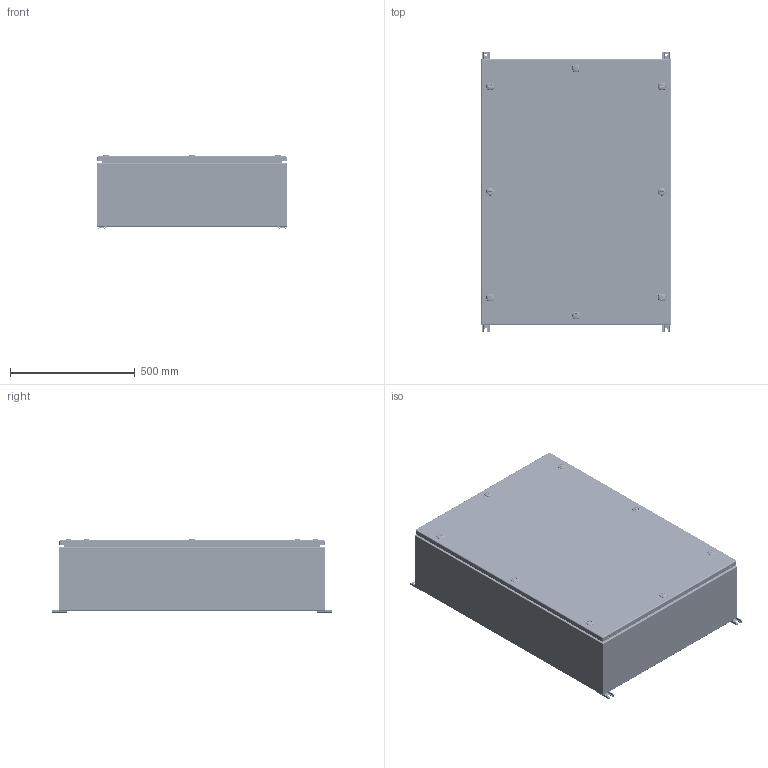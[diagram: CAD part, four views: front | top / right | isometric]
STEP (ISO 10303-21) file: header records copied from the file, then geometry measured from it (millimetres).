
FILE_DESCRIPTION(/* description */ ('5412ESQT 42" x 30" x 10" Assembly'),/* implementation_level */ '2;1');
FILE_NAME(/* name */ 'C:\Vault_Workspace\Inventor_Dwg\BoxCad\Result\5412ESQT423010TH\e-mail\3D\5412ESQT423010TH.stp',/* time_stamp */ '2023-07-13T20:10:30-04:00',/* author */ ('BoxCad'),/* organization */ (''),/* preprocessor_version */ 'ST-DEVELOPER v18.1',/* originating_system */ 'Autodesk Inventor 2020',/* authorisation */ '');
FILE_SCHEMA (('AUTOMOTIVE_DESIGN { 1 0 10303 214 3 1 1 }'));
Products named in the file (55): 5412ESQT423010TH; 5412ESQT423010THB; 5412ESQT423010THB-P; STK-Q-16005; 5412ESQT423010THI-B; 5412ESQT423010THI-TP; 5412ESQT423010THI-BT; 5412ESQT423010THI-LS; 5412ESQT423010THI-RS; 5412ESQT423010THBR; STK-A-70554; STK-Q-05021; STK-Q-07270; STK-A-70554TH-1; STK-Q-70554; 885ESMF3-Feet-A; 885ESMF3-Feet; STK-Q-06660; RIVET_NUT_M10_FH_CE; STK-K-885ESMF3; 5412ESQT423010THC; 5412ESQT423010THC-P; 5412ESQT423010THG; STK-Q-46515-1; STK-Q-46515-2; STK-Q-46515-3; STK-Q-16055; STK-Q-46515-4; STK-Q-46515-B; STK-Q-46515-A; STK-P-02400S; 5412ESQT423010THI-C; STK-Q-46020-42; STK-Q-46025-30-3; STK-Q-07250; STK-S-00100; STK-K-12500-1; STK-K-12500-2; STK-K-12500-3; STK-K-12500-4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
Assembly tree (161 placements, depth 5):
  5412ESQT423010TH
    5412ESQT423010THB
      5412ESQT423010THB-P
      STK-Q-16005  x6
      STK-P-02400S
      STK-Q-16055  x4
      5412ESQT423010THI-B
      5412ESQT423010THI-TP
      5412ESQT423010THI-BT
      5412ESQT423010THI-LS
      5412ESQT423010THI-RS
      5412ESQT423010THBR
        STK-A-70554
          STK-Q-70554
          STK-Q-05021
          STK-Q-07270
        STK-A-70554TH-1  x3
          STK-Q-70554
          STK-Q-07250
      885ESMF3-Feet-A  x2
      STK-Q-06660  x4
      RIVET_NUT_M10_FH_CE  x4
      885ESMF3-Feet  x2
      STK-K-885ESMF3
    5412ESQT423010THC
      5412ESQT423010THC-P
      5412ESQT423010THG
      STK-Q-16055  x14
      STK-Q-46515-1
        STK-Q-46515-B
        STK-Q-46515-A
      STK-Q-46515-2
        STK-Q-46515-B
        STK-Q-46515-A
      STK-Q-46515-3
        STK-Q-46515-B
        STK-Q-46515-A
      STK-Q-46515-4
        STK-Q-46515-B
        STK-Q-46515-A
      STK-P-02400S
      5412ESQT423010THI-C
      STK-Q-46020-42  x2
      STK-Q-46025-30-3  x2
      STK-Q-07250  x10
      STK-S-00100  x2
      STK-K-12500-1
        STK-Q-78111
        STK-Q-78120
        STK-Q-78145
        STK-Q-03200
        STK-Q-78141
        STK-Q-90390
        STK-Q-78160
      STK-K-12500-2
        STK-Q-78111
        STK-Q-78120
        STK-Q-78145
        STK-Q-03200
        STK-Q-78141
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Bounding box: 762 x 1123.95 x 293.63 mm (x, y, z)
Volume: 51833822.1 mm3; surface area: 12681583.9 mm2
Topology: 141 solids, 141 shells, 27395 faces, 73476 edges, 46739 vertices
Faces by surface type: plane 9176, bspline 9018, cylinder 6950, torus 1406, cone 492, sphere 353
Full cylindrical faces by diameter (mm): 0.75 x24, 0.762 x24, 4.191 x122, 4.5 x18, 5.1 x274, 5.105 x52, 5.9 x64, 6.015 x122, 6.496 x8, 6.65 x6, 6.8 x90, 7.112 x6, 7.35 x14, 7.366 x4, 7.468 x8, 7.9 x10, 8 x4, 8.5 x4, 9.5 x1, 9.6 x8, 9.654 x4, 9.7 x36, 10 x8, 10.312 x6, 11.9 x54, 12.7 x22, 12.8 x8, 13 x8, 15.9 x8, 16 x8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
Entity records: 201824 total; most frequent: CARTESIAN_POINT 80391, ORIENTED_EDGE 27050, DIRECTION 21258, EDGE_CURVE 13525, VERTEX_POINT 8703, AXIS2_PLACEMENT_3D 7428, LINE 6402, VECTOR 6402
